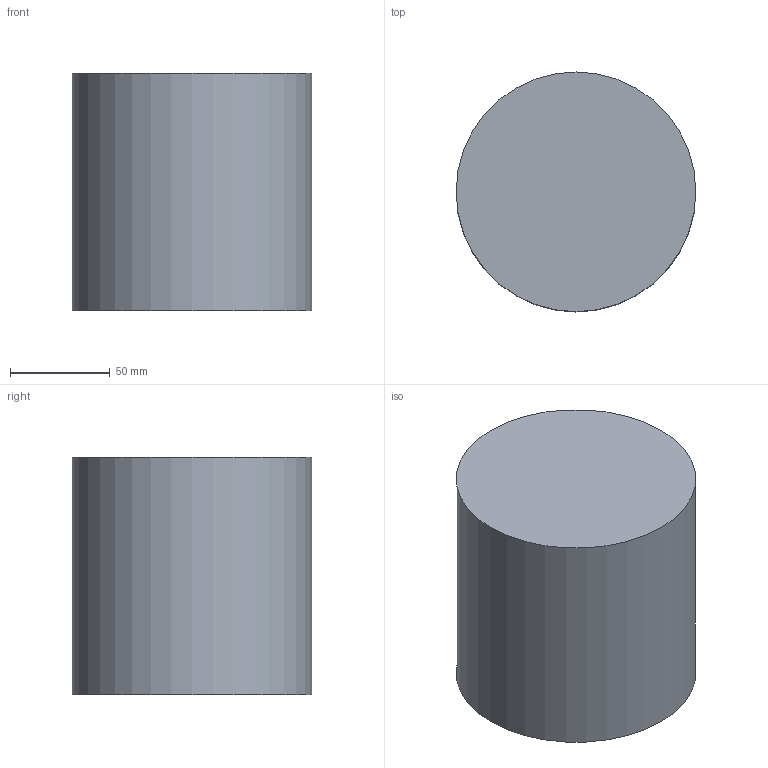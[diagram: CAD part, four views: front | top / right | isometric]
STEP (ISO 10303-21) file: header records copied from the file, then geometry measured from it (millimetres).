
FILE_DESCRIPTION(('Open CASCADE Model'),'2;1');
FILE_NAME('Open CASCADE Shape Model','2026-10-10T15:34:57',('Author'),( 'Open CASCADE'),'Open CASCADE STEP processor 7.9','Open CASCADE 7.9' ,'Unknown');
FILE_SCHEMA(('AUTOMOTIVE_DESIGN { 1 0 10303 214 1 1 1 1 }'));
Length unit declared in the file: millimetre
Products named in the file (1): Open CASCADE STEP translator 7.9 6
Bounding box: 120 x 120 x 119 mm (x, y, z)
Volume: 1345858.3 mm3; surface area: 67481.4 mm2
Topology: 1 solids, 1 shells, 3 faces, 3 edges, 2 vertices
Faces by surface type: plane 2, cylinder 1
Full cylindrical faces by diameter (mm): 120 x1
Entity records: 108 total; most frequent: DIRECTION 19, CARTESIAN_POINT 15, AXIS2_PLACEMENT_3D 6, ORIENTED_EDGE 6, PCURVE 6, DEFINITIONAL_REPRESENTATION 6, LINE 5, VECTOR 5
